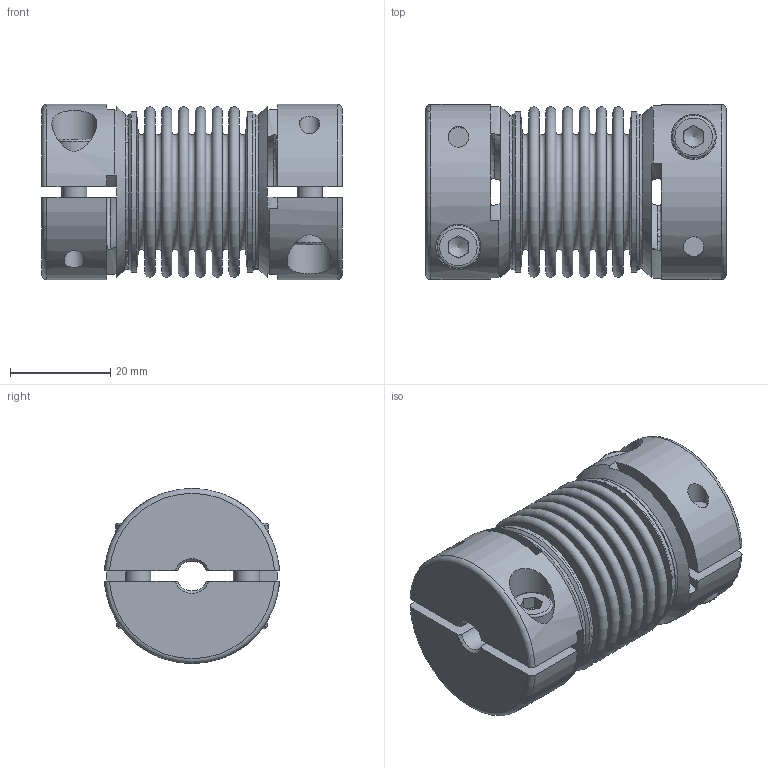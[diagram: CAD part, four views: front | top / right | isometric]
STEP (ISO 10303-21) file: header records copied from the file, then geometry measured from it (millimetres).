
FILE_DESCRIPTION(/* description */ ('Unknown','CAx-IF Rec.Pracs.---Representation and Presentation of Product Manufacturing Information (PMI)---4.0---2014-10-13','CAx-IF Rec.Pracs.---3D Tessellated Geometry---0.4---2014-09-14','2;1'),/* implementation_level */ '2;1');
FILE_NAME(/* name */ 'KG-HS 10 - 6W',/* time_stamp */ '2022-11-25T11:35:47+01:00',/* author */ ('Unknown'),/* organization */ ('Unknown'),/* preprocessor_version */ 'ST-DEVELOPER v18.102',/* originating_system */ 'Solid Edge',/* authorisation */ 'Unknown');
FILE_SCHEMA (('AP242_MANAGED_MODEL_BASED_3D_ENGINEERING_MIM_LF { 1 0 10303 442 1 1 4 }'));
Length unit declared in the file: millimetre
Products named in the file (1): 04824567
Bounding box: 59.97 x 34.94 x 35 mm (x, y, z)
Volume: 28448 mm3; surface area: 28704.3 mm2
Topology: 1 solids, 1 shells, 238 faces, 564 edges, 366 vertices
Faces by surface type: plane 134, torus 42, cylinder 40, cone 22
Full cylindrical faces by diameter (mm): 4.134 x4, 5 x4, 5.4 x2, 8.5 x4, 9 x4, 31.6 x2, 32 x2
Entity records: 8578 total; most frequent: CARTESIAN_POINT 1736, DIRECTION 1092, ORIENTED_EDGE 944, EDGE_CURVE 472, AXIS2_PLACEMENT_3D 458, FACE_BOUND 358, EDGE_LOOP 354, VERTEX_POINT 346
